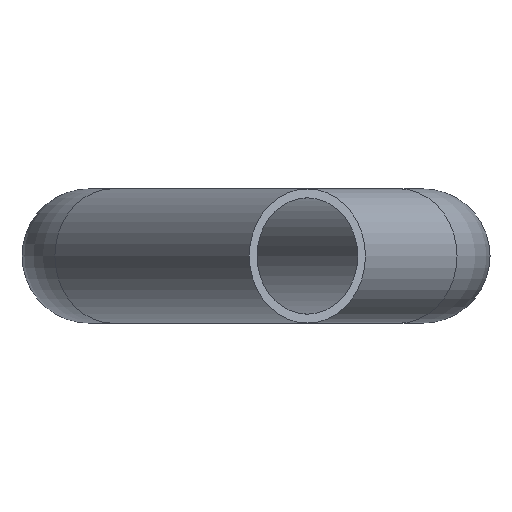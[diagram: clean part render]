
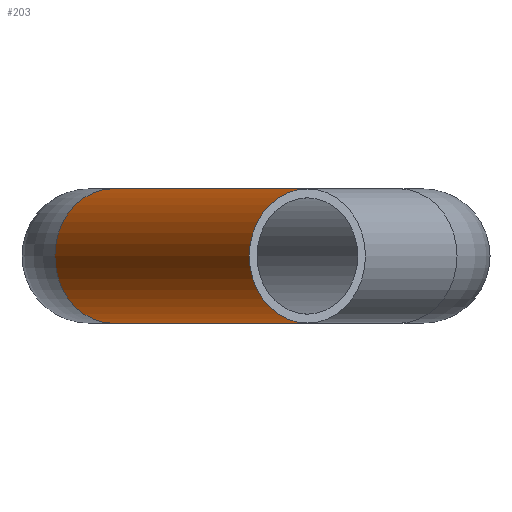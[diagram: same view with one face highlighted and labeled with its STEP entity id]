
A CAD part, left-side view. The second image highlights one B-rep face of the part: STEP entity #203.
In plain terms, the highlighted cylindrical face has radius 7.5 mm (diameter 15 mm), a full revolution.
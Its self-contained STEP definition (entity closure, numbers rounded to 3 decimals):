
#176=CARTESIAN_POINT('',(-140.,34.641,0.0));
#177=DIRECTION('',(-0.866,-0.5,0.0));
#178=DIRECTION('',(0.5,-0.866,0.0));
#179=AXIS2_PLACEMENT_3D('',#176,#177,#178);
#180=CYLINDRICAL_SURFACE('',#179,7.5);
#181=CARTESIAN_POINT('',(-181.381,19.41,0.));
#182=VERTEX_POINT('',#181);
#183=CARTESIAN_POINT('',(-177.631,12.915,0.0));
#184=DIRECTION('',(0.866,0.5,0.0));
#185=DIRECTION('',(0.5,-0.866,0.0));
#186=AXIS2_PLACEMENT_3D('',#183,#184,#185);
#187=CIRCLE('',#186,7.5);
#188=EDGE_CURVE('',#182,#182,#187,.T.);
#189=ORIENTED_EDGE('',*,*,#188,.T.);
#190=EDGE_LOOP('',(#189));
#191=FACE_OUTER_BOUND('',#190,.T.);
#192=CARTESIAN_POINT('',(-143.75,41.136,0.));
#193=VERTEX_POINT('',#192);
#194=CARTESIAN_POINT('',(-140.,34.641,0.0));
#195=DIRECTION('',(0.866,0.5,0.0));
#196=DIRECTION('',(0.5,-0.866,0.0));
#197=AXIS2_PLACEMENT_3D('',#194,#195,#196);
#198=CIRCLE('',#197,7.5);
#199=EDGE_CURVE('',#193,#193,#198,.T.);
#200=ORIENTED_EDGE('',*,*,#199,.F.);
#201=EDGE_LOOP('',(#200));
#202=FACE_BOUND('',#201,.T.);
#203=ADVANCED_FACE('',(#191,#202),#180,.T.);
